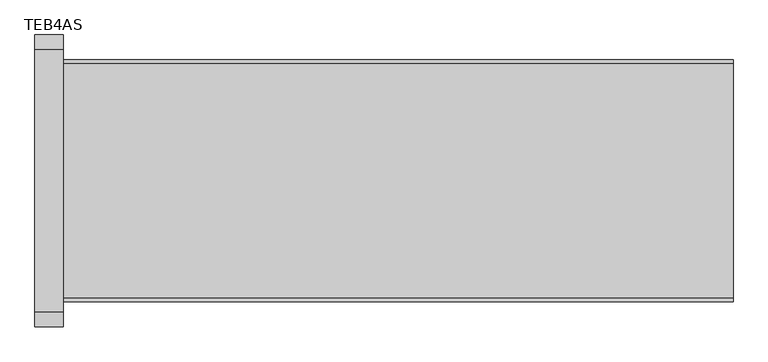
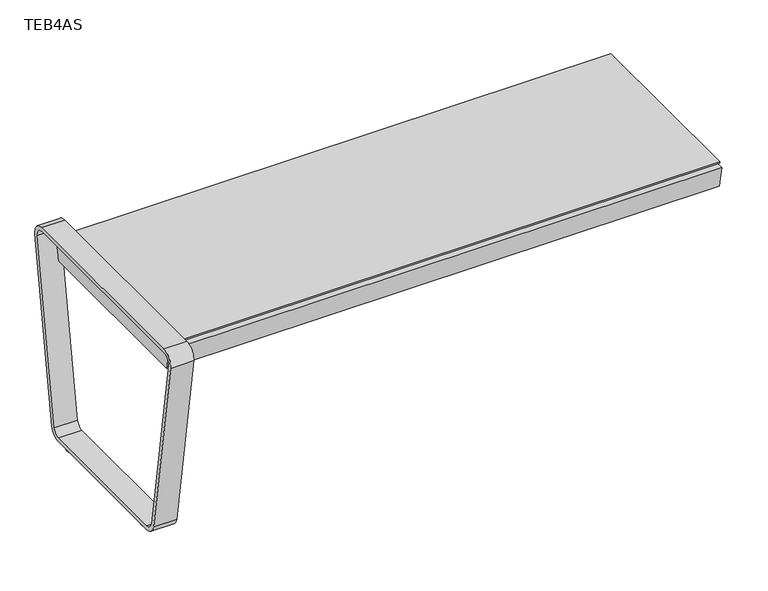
"""IFC4 building model written with IfcOpenShell, lengths in millimetres: furniture geometry, Stance_HC-Terrace-Straight_Bench_Steel : TEB4AS."""

from ifc_helpers import new_model, si_unit, point, frame, frame_2d, origin, origin_with_axes, place, context, project, spatial, polyline, circle_curve, trimmed, segment, composite_curve, outline, extrude, source, transform, mapped, element, save


def teb4as_706bcdf3(model_context):
    return source(origin(), model_context, "Body", "SweptSolid", [
        extrude(outline(polyline([(880.26875, -50.90414), (880.26875, -467.25586), (791.36875, -467.25586), (791.36875, -50.90414), (880.26875, -50.90414)])), frame((0.0, 0.0, 432.435), z_axis=(0.0, 0.0, 1.0), x_axis=(1.0, 0.0, 0.0)), (0.0, 0.0, 1.0), 3.175),
        extrude(outline(composite_curve([segment(polyline([(-467.25586, 432.435), (-50.90414, 432.435), (-57.0623598, 397.51)]), True, "CONTINUOUS"), segment(trimmed(circle_curve(frame_2d((-259.08, 1997.8972816)), 1613.0872816), [point((-57.0623598, 397.51))], [point((-461.0976402, 397.51))], False, "CARTESIAN"), True, "CONTINUOUS"), segment(polyline([(-461.0976402, 397.51), (-467.25586, 432.435)]), True, "CONTINUOUS")], self_intersect=False)), frame((833.43115, 0.0, 0.0), z_axis=(1.0, 0.0, 0.0), x_axis=(0.0, 1.0, 0.0)), (0.0, 0.0, 1.0), 4.7752),
        extrude(outline(polyline([(677.8625, -50.90414), (677.8625, -467.25586), (588.9625, -467.25586), (588.9625, -50.90414), (677.8625, -50.90414)])), frame((0.0, 0.0, 432.435), z_axis=(0.0, 0.0, 1.0), x_axis=(1.0, 0.0, 0.0)), (0.0, 0.0, 1.0), 3.175),
        extrude(outline(composite_curve([segment(polyline([(-467.25586, 432.435), (-50.90414, 432.435), (-57.0623598, 397.51)]), True, "CONTINUOUS"), segment(trimmed(circle_curve(frame_2d((-259.08, 1997.8972816)), 1613.0872816), [point((-57.0623598, 397.51))], [point((-461.0976402, 397.51))], False, "CARTESIAN"), True, "CONTINUOUS"), segment(polyline([(-461.0976402, 397.51), (-467.25586, 432.435)]), True, "CONTINUOUS")], self_intersect=False)), frame((631.0249, 0.0, 0.0), z_axis=(1.0, 0.0, 0.0), x_axis=(0.0, 1.0, 0.0)), (0.0, 0.0, 1.0), 4.7752),
        extrude(outline(polyline([(475.45625, -50.90414), (475.45625, -467.25586), (386.55625, -467.25586), (386.55625, -50.90414), (475.45625, -50.90414)])), frame((0.0, 0.0, 432.435), z_axis=(0.0, 0.0, 1.0), x_axis=(1.0, 0.0, 0.0)), (0.0, 0.0, 1.0), 3.175),
        extrude(outline(composite_curve([segment(polyline([(-467.25586, 432.435), (-50.90414, 432.435), (-57.0623598, 397.51)]), True, "CONTINUOUS"), segment(trimmed(circle_curve(frame_2d((-259.08, 1997.8972816)), 1613.0872816), [point((-57.0623598, 397.51))], [point((-461.0976402, 397.51))], False, "CARTESIAN"), True, "CONTINUOUS"), segment(polyline([(-461.0976402, 397.51), (-467.25586, 432.435)]), True, "CONTINUOUS")], self_intersect=False)), frame((428.61865, 0.0, 0.0), z_axis=(1.0, 0.0, 0.0), x_axis=(0.0, 1.0, 0.0)), (0.0, 0.0, 1.0), 4.7752),
        extrude(outline(polyline([(1082.675, -50.90414), (1082.675, -467.25586), (993.775, -467.25586), (993.775, -50.90414), (1082.675, -50.90414)])), frame((0.0, 0.0, 432.435), z_axis=(0.0, 0.0, 1.0), x_axis=(1.0, 0.0, 0.0)), (0.0, 0.0, 1.0), 3.175),
        extrude(outline(composite_curve([segment(polyline([(-467.25586, 432.435), (-50.90414, 432.435), (-57.0623598, 397.51)]), True, "CONTINUOUS"), segment(trimmed(circle_curve(frame_2d((-259.08, 1997.8972816)), 1613.0872816), [point((-57.0623598, 397.51))], [point((-461.0976402, 397.51))], False, "CARTESIAN"), True, "CONTINUOUS"), segment(polyline([(-461.0976402, 397.51), (-467.25586, 432.435)]), True, "CONTINUOUS")], self_intersect=False)), frame((1035.8374, 0.0, 0.0), z_axis=(1.0, 0.0, 0.0), x_axis=(0.0, 1.0, 0.0)), (0.0, 0.0, 1.0), 4.7752),
        extrude(outline(polyline([(273.05, -50.90414), (273.05, -467.25586), (184.15, -467.25586), (184.15, -50.90414), (273.05, -50.90414)])), frame((0.0, 0.0, 432.435), z_axis=(0.0, 0.0, 1.0), x_axis=(1.0, 0.0, 0.0)), (0.0, 0.0, 1.0), 3.175),
        extrude(outline(composite_curve([segment(polyline([(-467.25586, 432.435), (-50.90414, 432.435), (-57.0623598, 397.51)]), True, "CONTINUOUS"), segment(trimmed(circle_curve(frame_2d((-259.08, 1997.8972816)), 1613.0872816), [point((-57.0623598, 397.51))], [point((-461.0976402, 397.51))], False, "CARTESIAN"), True, "CONTINUOUS"), segment(polyline([(-461.0976402, 397.51), (-467.25586, 432.435)]), True, "CONTINUOUS")], self_intersect=False)), frame((226.2124, 0.0, 0.0), z_axis=(1.0, 0.0, 0.0), x_axis=(0.0, 1.0, 0.0)), (0.0, 0.0, 1.0), 4.7752),
        extrude(outline(polyline([(-476.5675, 457.8350949), (-41.5925, 457.8350949), (-52.2294419, 397.51), (-465.9305581, 397.51), (-476.5675, 457.8350949)])), frame((22.225, 0.0, 0.0), z_axis=(1.0, 0.0, 0.0), x_axis=(0.0, 1.0, 0.0)), (0.0, 0.0, 1.0), 6.35),
        extrude(outline(composite_curve([segment(trimmed(circle_curve(frame_2d((25.4, -399.75536)), 22.225), [point((3.175, -399.75536))], [point((47.625, -399.75536))], False, "CARTESIAN"), True, "CONTINUOUS"), segment(trimmed(circle_curve(frame_2d((25.4, -399.75536)), 22.225), [point((47.625, -399.75536))], [point((3.175, -399.75536))], False, "CARTESIAN"), True, "CONTINUOUS")], self_intersect=False)), origin_with_axes(), (0.0, 0.0, 1.0), 6.35),
        extrude(outline(composite_curve([segment(trimmed(circle_curve(frame_2d((25.4, -118.40464)), 22.225), [point((3.175, -118.40464))], [point((47.625, -118.40464))], False, "CARTESIAN"), True, "CONTINUOUS"), segment(trimmed(circle_curve(frame_2d((25.4, -118.40464)), 22.225), [point((47.625, -118.40464))], [point((3.175, -118.40464))], False, "CARTESIAN"), True, "CONTINUOUS")], self_intersect=False)), origin_with_axes(), (0.0, 0.0, 1.0), 6.35),
        extrude(outline(composite_curve([segment(polyline([(-493.0697614, 467.3600949), (-25.0902386, 467.3600949)]), True, "CONTINUOUS"), segment(trimmed(circle_curve(frame_2d((-25.0902386, 441.96)), 25.4000949), [point((-25.0902386, 467.3600949))], [point((-0.002861, 437.9865497))], False, "CARTESIAN"), True, "CONTINUOUS"), segment(polyline([(-0.002861, 437.9865497), (-64.9737422, 27.7765497)]), True, "CONTINUOUS"), segment(trimmed(circle_curve(frame_2d((-90.0611198, 31.75)), 25.4000949), [point((-64.9737422, 27.7765497))], [point((-90.0611198, 6.3499051))], False, "CARTESIAN"), True, "CONTINUOUS"), segment(polyline([(-90.0611198, 6.3499051), (-428.0988802, 6.3499051)]), True, "CONTINUOUS"), segment(trimmed(circle_curve(frame_2d((-428.0988802, 31.75)), 25.4000949), [point((-428.0988802, 6.3499051))], [point((-453.1862578, 27.7765497))], False, "CARTESIAN"), True, "CONTINUOUS"), segment(polyline([(-453.1862578, 27.7765497), (-518.157139, 437.9865497)]), True, "CONTINUOUS"), segment(trimmed(circle_curve(frame_2d((-493.0697614, 441.96)), 25.4000949), [point((-518.157139, 437.9865497))], [point((-493.0697614, 467.3600949))], False, "CARTESIAN"), True, "CONTINUOUS")], self_intersect=False), holes=[composite_curve([segment(polyline([(-74.3814737, 29.266588), (-9.4105924, 439.476588)]), True, "CONTINUOUS"), segment(trimmed(circle_curve(frame_2d((-25.0902386, 441.96)), 15.8750949), [point((-9.4105924, 439.476588))], [point((-25.0902386, 457.8350949))], True, "CARTESIAN"), True, "CONTINUOUS"), segment(polyline([(-25.0902386, 457.8350949), (-493.0697614, 457.8350949)]), True, "CONTINUOUS"), segment(trimmed(circle_curve(frame_2d((-493.0697614, 441.96)), 15.8750949), [point((-493.0697614, 457.8350949))], [point((-508.7494076, 439.476588))], True, "CARTESIAN"), True, "CONTINUOUS"), segment(polyline([(-508.7494076, 439.476588), (-443.7785263, 29.266588)]), True, "CONTINUOUS"), segment(trimmed(circle_curve(frame_2d((-428.0988802, 31.75)), 15.8750949), [point((-443.7785263, 29.266588))], [point((-428.0988802, 15.8749051))], True, "CARTESIAN"), True, "CONTINUOUS"), segment(polyline([(-428.0988802, 15.8749051), (-90.0611198, 15.8749051)]), True, "CONTINUOUS"), segment(trimmed(circle_curve(frame_2d((-90.0611198, 31.75)), 15.8750949), [point((-90.0611198, 15.8749051))], [point((-74.3814737, 29.266588))], True, "CARTESIAN"), True, "CONTINUOUS")], self_intersect=False)]), frame((0.0, 0.0, 0.0), z_axis=(1.0, 0.0, 0.0), x_axis=(0.0, 1.0, 0.0)), (0.0, 0.0, 1.0), 50.8),
        extrude(outline(polyline([(1241.425, -51.1175), (1241.425, -467.0425), (28.575, -467.0425), (28.575, -51.1175), (1241.425, -51.1175)])), frame((0.0, 0.0, 451.485), z_axis=(0.0, 0.0, 1.0), x_axis=(1.0, 0.0, 0.0)), (0.0, 0.0, 1.0), 3.175),
        extrude(outline(polyline([(-57.0610609, 397.510164), (-461.0989391, 397.510164), (-467.2574614, 432.4368793), (-50.9025386, 432.4368793), (-57.0610609, 397.510164)])), frame((1236.6625, 0.0, 0.0), z_axis=(1.0, 0.0, 0.0), x_axis=(0.0, 1.0, 0.0)), (0.0, 0.0, 1.0), 4.7625),
        extrude(outline(polyline([(-57.0610609, 397.510164), (-461.0989391, 397.510164), (-467.2574614, 432.4368793), (-50.9025386, 432.4368793), (-57.0610609, 397.510164)])), frame((28.575, 0.0, 0.0), z_axis=(1.0, 0.0, 0.0), x_axis=(0.0, 1.0, 0.0)), (0.0, 0.0, 1.0), 4.7625),
        extrude(outline(polyline([(-474.3310721, 445.1343772), (-448.9310721, 445.1343772), (-448.9310721, 440.3718772), (-468.6553456, 440.3718772), (-461.0976402, 397.51), (-465.7877871, 396.6830006), (-474.3310721, 445.1343772)])), frame((28.575, 0.0, 0.0), z_axis=(1.0, 0.0, 0.0), x_axis=(0.0, 1.0, 0.0)), (0.0, 0.0, 1.0), 1212.85),
        extrude(outline(polyline([(-43.8289279, 445.1343772), (-52.3722129, 396.6830006), (-57.0623598, 397.51), (-49.5046544, 440.3718772), (-69.2289279, 440.3718772), (-69.2289279, 445.1343772), (-43.8289279, 445.1343772)])), frame((28.575, 0.0, 0.0), z_axis=(1.0, 0.0, 0.0), x_axis=(0.0, 1.0, 0.0)), (0.0, 0.0, 1.0), 1212.85),
    ])


if __name__ == "__main__":
    model = new_model("IFC4")
    model_context = context("Model", 3, world=origin())
    ifc_project = project(units=[si_unit("LENGTHUNIT", "METRE", prefix="MILLI")], contexts=[model_context])
    site = spatial("IfcSite", under=ifc_project)
    building = spatial("IfcBuilding", under=site)
    placement = place(None, origin())
    teb4as_shape = teb4as_706bcdf3(model_context)
    element("IfcFurniture", 1, ObjectType="Stance_HC-Terrace-Straight_Bench_Steel : TEB4AS", at=placement, inside=building, context=model_context, shape_type="MappedRepresentation", body=[
        mapped(teb4as_shape, transform((0.0, 0.0, 0.0), x_axis=(1.0, 0.0, 0.0), y_axis=(0.0, 1.0, 0.0), z_axis=(0.0, 0.0, 1.0))),
    ])
    save(model, "model.ifc")
